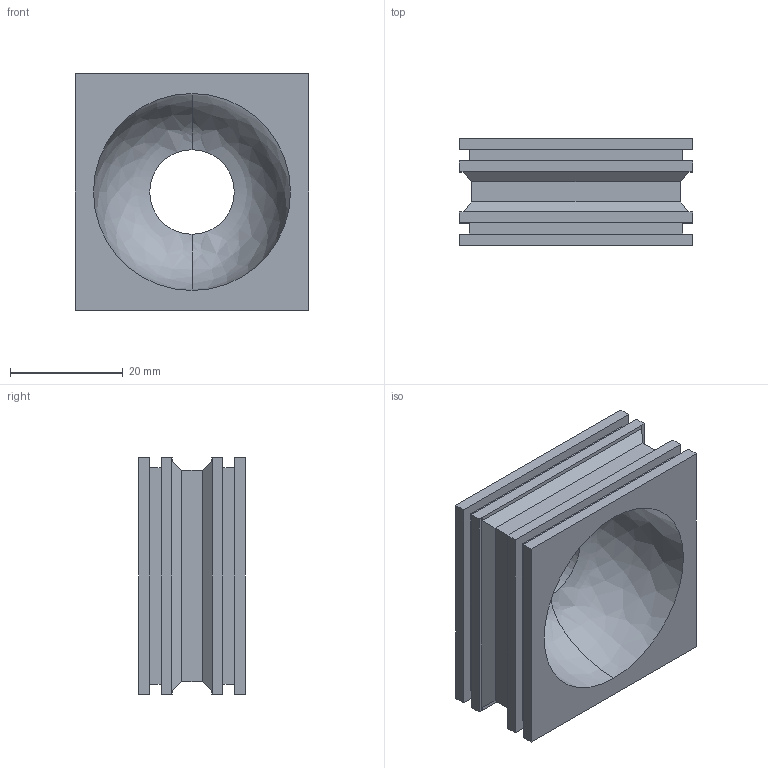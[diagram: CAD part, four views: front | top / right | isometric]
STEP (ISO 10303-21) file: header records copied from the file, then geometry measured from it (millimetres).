
FILE_DESCRIPTION (( 'STEP AP203' ), '1' );
FILE_NAME ('041318 KTB-A.STEP', '2023-03-07T06:51:59', ( '' ), ( '' ), 'SwSTEP 2.0', 'SolidWorks 2016', '' );
FILE_SCHEMA (( 'CONFIG_CONTROL_DESIGN' ));
Length unit declared in the file: millimetre
Products named in the file (1): 041318 KTB-A
Bounding box: 41.5 x 19 x 42 mm (x, y, z)
Volume: 17509.3 mm3; surface area: 8860.9 mm2
Topology: 1 solids, 1 shells, 54 faces, 134 edges, 86 vertices
Faces by surface type: plane 50, bspline 2, cylinder 2
Entity records: 1669 total; most frequent: CARTESIAN_POINT 311, ORIENTED_EDGE 268, DIRECTION 244, EDGE_CURVE 134, LINE 126, VECTOR 126, VERTEX_POINT 86, EDGE_LOOP 60
